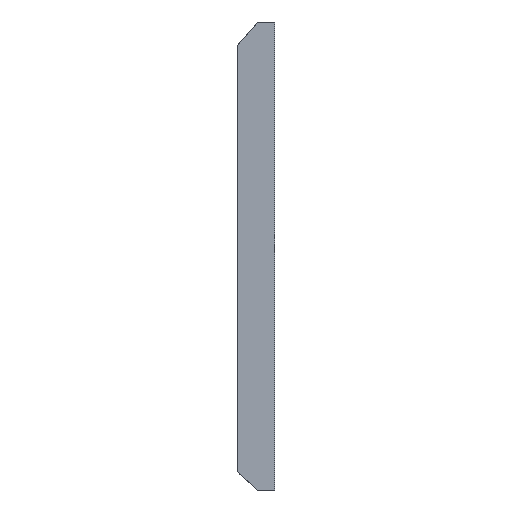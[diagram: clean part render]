
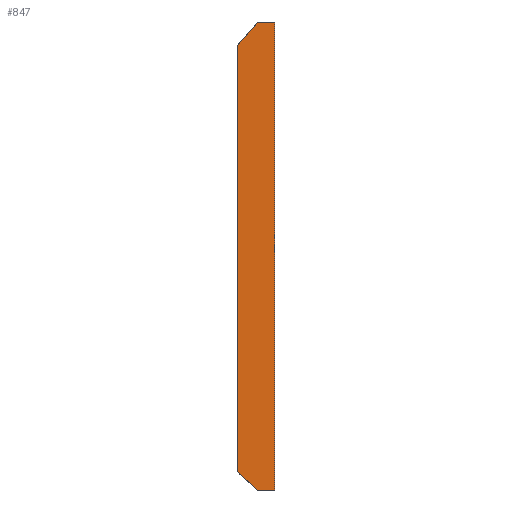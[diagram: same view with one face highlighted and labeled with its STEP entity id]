
A CAD part, left-side view. The second image highlights one B-rep face of the part: STEP entity #847.
In plain terms, the highlighted planar face has unit normal (-1, 0, 0).
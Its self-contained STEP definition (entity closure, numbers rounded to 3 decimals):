
#32 = PLANE('',#33);
#33 = AXIS2_PLACEMENT_3D('',#34,#35,#36);
#34 = CARTESIAN_POINT('',(30.,-30.,0.));
#35 = DIRECTION('',(-0.,1.,-0.));
#36 = DIRECTION('',(1.,0.,0.));
#202 = VERTEX_POINT('',#203);
#203 = CARTESIAN_POINT('',(-30.,-30.,748.81));
#217 = PLANE('',#218);
#218 = AXIS2_PLACEMENT_3D('',#219,#220,#221);
#219 = CARTESIAN_POINT('',(0.,0.,748.81));
#220 = DIRECTION('',(-0.,-0.,1.));
#221 = DIRECTION('',(1.,0.,0.));
#229 = EDGE_CURVE('',#230,#202,#232,.T.);
#230 = VERTEX_POINT('',#231);
#231 = CARTESIAN_POINT('',(-30.,-30.,0.));
#232 = SURFACE_CURVE('',#233,(#237,#244),.PCURVE_S1.);
#233 = LINE('',#234,#235);
#234 = CARTESIAN_POINT('',(-30.,-30.,0.));
#235 = VECTOR('',#236,1.);
#236 = DIRECTION('',(-0.,-0.,1.));
#237 = PCURVE('',#32,#238);
#238 = DEFINITIONAL_REPRESENTATION('',(#239),#243);
#239 = LINE('',#240,#241);
#240 = CARTESIAN_POINT('',(-60.,0.));
#241 = VECTOR('',#242,1.);
#242 = DIRECTION('',(-0.,-1.));
#243 = ( GEOMETRIC_REPRESENTATION_CONTEXT(2) 
PARAMETRIC_REPRESENTATION_CONTEXT() REPRESENTATION_CONTEXT('2D SPACE',''
  ) );
#244 = PCURVE('',#245,#250);
#245 = PLANE('',#246);
#246 = AXIS2_PLACEMENT_3D('',#247,#248,#249);
#247 = CARTESIAN_POINT('',(-30.,-30.,0.));
#248 = DIRECTION('',(1.,-0.,-0.));
#249 = DIRECTION('',(0.,-1.,0.));
#250 = DEFINITIONAL_REPRESENTATION('',(#251),#255);
#251 = LINE('',#252,#253);
#252 = CARTESIAN_POINT('',(-0.,-0.));
#253 = VECTOR('',#254,1.);
#254 = DIRECTION('',(-0.,-1.));
#255 = ( GEOMETRIC_REPRESENTATION_CONTEXT(2) 
PARAMETRIC_REPRESENTATION_CONTEXT() REPRESENTATION_CONTEXT('2D SPACE',''
  ) );
#273 = PLANE('',#274);
#274 = AXIS2_PLACEMENT_3D('',#275,#276,#277);
#275 = CARTESIAN_POINT('',(0.,0.,0.));
#276 = DIRECTION('',(-0.,-0.,1.));
#277 = DIRECTION('',(1.,0.,0.));
#748 = EDGE_CURVE('',#230,#749,#751,.T.);
#749 = VERTEX_POINT('',#750);
#750 = CARTESIAN_POINT('',(-30.,-3.033,0.));
#751 = SURFACE_CURVE('',#752,(#756,#763),.PCURVE_S1.);
#752 = LINE('',#753,#754);
#753 = CARTESIAN_POINT('',(-30.,-30.,0.));
#754 = VECTOR('',#755,1.);
#755 = DIRECTION('',(-0.,1.,-0.));
#756 = PCURVE('',#273,#757);
#757 = DEFINITIONAL_REPRESENTATION('',(#758),#762);
#758 = LINE('',#759,#760);
#759 = CARTESIAN_POINT('',(-30.,-30.));
#760 = VECTOR('',#761,1.);
#761 = DIRECTION('',(-0.,1.));
#762 = ( GEOMETRIC_REPRESENTATION_CONTEXT(2) 
PARAMETRIC_REPRESENTATION_CONTEXT() REPRESENTATION_CONTEXT('2D SPACE',''
  ) );
#763 = PCURVE('',#245,#764);
#764 = DEFINITIONAL_REPRESENTATION('',(#765),#769);
#765 = LINE('',#766,#767);
#766 = CARTESIAN_POINT('',(-0.,-0.));
#767 = VECTOR('',#768,1.);
#768 = DIRECTION('',(-1.,0.));
#769 = ( GEOMETRIC_REPRESENTATION_CONTEXT(2) 
PARAMETRIC_REPRESENTATION_CONTEXT() REPRESENTATION_CONTEXT('2D SPACE',''
  ) );
#787 = PLANE('',#788);
#788 = AXIS2_PLACEMENT_3D('',#789,#790,#791);
#789 = CARTESIAN_POINT('',(0.,-1.319,1.504));
#790 = DIRECTION('',(-0.,-0.659,0.752));
#791 = DIRECTION('',(-1.,0.,0.));
#847 = ADVANCED_FACE('',(#848),#245,.F.);
#848 = FACE_BOUND('',#849,.T.);
#849 = EDGE_LOOP('',(#850,#851,#852,#875,#903,#931));
#850 = ORIENTED_EDGE('',*,*,#748,.F.);
#851 = ORIENTED_EDGE('',*,*,#229,.T.);
#852 = ORIENTED_EDGE('',*,*,#853,.T.);
#853 = EDGE_CURVE('',#202,#854,#856,.T.);
#854 = VERTEX_POINT('',#855);
#855 = CARTESIAN_POINT('',(-30.,-2.66,748.81));
#856 = SURFACE_CURVE('',#857,(#861,#868),.PCURVE_S1.);
#857 = LINE('',#858,#859);
#858 = CARTESIAN_POINT('',(-30.,-30.,748.81));
#859 = VECTOR('',#860,1.);
#860 = DIRECTION('',(-0.,1.,-0.));
#861 = PCURVE('',#245,#862);
#862 = DEFINITIONAL_REPRESENTATION('',(#863),#867);
#863 = LINE('',#864,#865);
#864 = CARTESIAN_POINT('',(-0.,-748.81));
#865 = VECTOR('',#866,1.);
#866 = DIRECTION('',(-1.,0.));
#867 = ( GEOMETRIC_REPRESENTATION_CONTEXT(2) 
PARAMETRIC_REPRESENTATION_CONTEXT() REPRESENTATION_CONTEXT('2D SPACE',''
  ) );
#868 = PCURVE('',#217,#869);
#869 = DEFINITIONAL_REPRESENTATION('',(#870),#874);
#870 = LINE('',#871,#872);
#871 = CARTESIAN_POINT('',(-30.,-30.));
#872 = VECTOR('',#873,1.);
#873 = DIRECTION('',(-0.,1.));
#874 = ( GEOMETRIC_REPRESENTATION_CONTEXT(2) 
PARAMETRIC_REPRESENTATION_CONTEXT() REPRESENTATION_CONTEXT('2D SPACE',''
  ) );
#875 = ORIENTED_EDGE('',*,*,#876,.T.);
#876 = EDGE_CURVE('',#854,#877,#879,.T.);
#877 = VERTEX_POINT('',#878);
#878 = CARTESIAN_POINT('',(-30.,30.,711.566));
#879 = SURFACE_CURVE('',#880,(#884,#891),.PCURVE_S1.);
#880 = LINE('',#881,#882);
#881 = CARTESIAN_POINT('',(-30.,391.855,298.924));
#882 = VECTOR('',#883,1.);
#883 = DIRECTION('',(-0.,0.659,-0.752));
#884 = PCURVE('',#245,#885);
#885 = DEFINITIONAL_REPRESENTATION('',(#886),#890);
#886 = LINE('',#887,#888);
#887 = CARTESIAN_POINT('',(-421.855,-298.924));
#888 = VECTOR('',#889,1.);
#889 = DIRECTION('',(-0.659,0.752));
#890 = ( GEOMETRIC_REPRESENTATION_CONTEXT(2) 
PARAMETRIC_REPRESENTATION_CONTEXT() REPRESENTATION_CONTEXT('2D SPACE',''
  ) );
#891 = PCURVE('',#892,#897);
#892 = PLANE('',#893);
#893 = AXIS2_PLACEMENT_3D('',#894,#895,#896);
#894 = CARTESIAN_POINT('',(50.,427.056,258.782));
#895 = DIRECTION('',(-0.,0.752,0.659));
#896 = DIRECTION('',(1.,0.,0.));
#897 = DEFINITIONAL_REPRESENTATION('',(#898),#902);
#898 = LINE('',#899,#900);
#899 = CARTESIAN_POINT('',(-80.,-53.39));
#900 = VECTOR('',#901,1.);
#901 = DIRECTION('',(-0.,1.));
#902 = ( GEOMETRIC_REPRESENTATION_CONTEXT(2) 
PARAMETRIC_REPRESENTATION_CONTEXT() REPRESENTATION_CONTEXT('2D SPACE',''
  ) );
#903 = ORIENTED_EDGE('',*,*,#904,.F.);
#904 = EDGE_CURVE('',#905,#877,#907,.T.);
#905 = VERTEX_POINT('',#906);
#906 = CARTESIAN_POINT('',(-30.,30.,28.968));
#907 = SURFACE_CURVE('',#908,(#912,#919),.PCURVE_S1.);
#908 = LINE('',#909,#910);
#909 = CARTESIAN_POINT('',(-30.,30.,0.));
#910 = VECTOR('',#911,1.);
#911 = DIRECTION('',(-0.,-0.,1.));
#912 = PCURVE('',#245,#913);
#913 = DEFINITIONAL_REPRESENTATION('',(#914),#918);
#914 = LINE('',#915,#916);
#915 = CARTESIAN_POINT('',(-60.,-0.));
#916 = VECTOR('',#917,1.);
#917 = DIRECTION('',(-0.,-1.));
#918 = ( GEOMETRIC_REPRESENTATION_CONTEXT(2) 
PARAMETRIC_REPRESENTATION_CONTEXT() REPRESENTATION_CONTEXT('2D SPACE',''
  ) );
#919 = PCURVE('',#920,#925);
#920 = PLANE('',#921);
#921 = AXIS2_PLACEMENT_3D('',#922,#923,#924);
#922 = CARTESIAN_POINT('',(-30.,30.,0.));
#923 = DIRECTION('',(-0.,-1.,-0.));
#924 = DIRECTION('',(-1.,0.,0.));
#925 = DEFINITIONAL_REPRESENTATION('',(#926),#930);
#926 = LINE('',#927,#928);
#927 = CARTESIAN_POINT('',(-0.,0.));
#928 = VECTOR('',#929,1.);
#929 = DIRECTION('',(-0.,-1.));
#930 = ( GEOMETRIC_REPRESENTATION_CONTEXT(2) 
PARAMETRIC_REPRESENTATION_CONTEXT() REPRESENTATION_CONTEXT('2D SPACE',''
  ) );
#931 = ORIENTED_EDGE('',*,*,#932,.F.);
#932 = EDGE_CURVE('',#749,#905,#933,.T.);
#933 = SURFACE_CURVE('',#934,(#938,#945),.PCURVE_S1.);
#934 = LINE('',#935,#936);
#935 = CARTESIAN_POINT('',(-30.,-9.798,-5.932));
#936 = VECTOR('',#937,1.);
#937 = DIRECTION('',(-0.,0.752,0.659));
#938 = PCURVE('',#245,#939);
#939 = DEFINITIONAL_REPRESENTATION('',(#940),#944);
#940 = LINE('',#941,#942);
#941 = CARTESIAN_POINT('',(-20.202,5.932));
#942 = VECTOR('',#943,1.);
#943 = DIRECTION('',(-0.752,-0.659));
#944 = ( GEOMETRIC_REPRESENTATION_CONTEXT(2) 
PARAMETRIC_REPRESENTATION_CONTEXT() REPRESENTATION_CONTEXT('2D SPACE',''
  ) );
#945 = PCURVE('',#787,#946);
#946 = DEFINITIONAL_REPRESENTATION('',(#947),#951);
#947 = LINE('',#948,#949);
#948 = CARTESIAN_POINT('',(30.,11.278));
#949 = VECTOR('',#950,1.);
#950 = DIRECTION('',(-0.,-1.));
#951 = ( GEOMETRIC_REPRESENTATION_CONTEXT(2) 
PARAMETRIC_REPRESENTATION_CONTEXT() REPRESENTATION_CONTEXT('2D SPACE',''
  ) );
